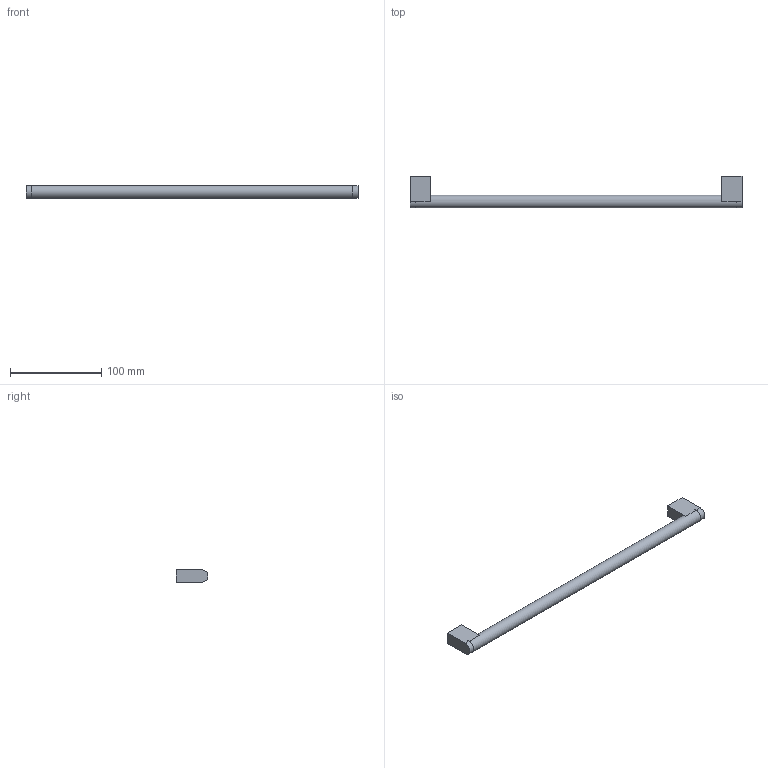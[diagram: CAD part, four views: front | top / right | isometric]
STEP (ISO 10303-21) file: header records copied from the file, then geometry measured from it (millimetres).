
FILE_DESCRIPTION( ( 'STEP AP214' ), ' ' );
FILE_NAME( 'C:/Users/bhog/Desktop/Handle/9070109/9070109.stp', '2018-11-20T10:20:57', ( '' ), ( '' ), ' ', 'PARTsolutions', ' ' );
FILE_SCHEMA( ( 'AUTOMOTIVE_DESIGN { 1 0 10303 214 1 1 1 1 }' ) );
Length unit declared in the file: millimetre
Products named in the file (1): _9070109
Bounding box: 364 x 35 x 14 mm (x, y, z)
Volume: 69677.8 mm3; surface area: 21382.7 mm2
Topology: 1 solids, 1 shells, 21 faces, 41 edges, 26 vertices
Faces by surface type: plane 14, cylinder 7
Full cylindrical faces by diameter (mm): 4 x2, 13.98 x1
Entity records: 706 total; most frequent: DIRECTION 96, CARTESIAN_POINT 86, ORIENTED_EDGE 76, EDGE_CURVE 38, AXIS2_PLACEMENT_3D 36, EDGE_LOOP 28, VERTEX_POINT 26, FACE_OUTER_BOUND 24
